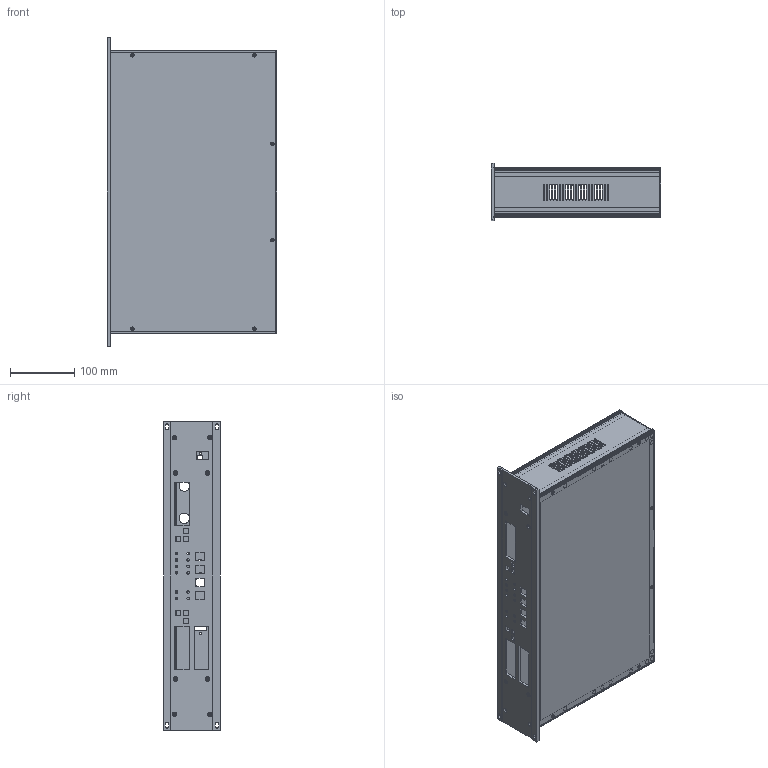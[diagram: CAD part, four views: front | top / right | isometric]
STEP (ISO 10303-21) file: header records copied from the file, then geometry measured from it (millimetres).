
FILE_DESCRIPTION (( 'STEP AP203' ), '1' );
FILE_NAME ('5214BYv01-221020.STEP', '2025-10-15T08:51:52', ( '' ), ( '' ), 'SwSTEP 2.0', 'SolidWorks 2021', '' );
FILE_SCHEMA (( 'CONFIG_CONTROL_DESIGN' ));
Length unit declared in the file: millimetre
Products named in the file (1): 5214BYv01-221020
Bounding box: 264.5 x 88 x 480 mm (x, y, z)
Volume: 538420.9 mm3; surface area: 762397.6 mm2
Topology: 6 solids, 6 shells, 613 faces, 1831 edges, 1232 vertices
Faces by surface type: plane 358, cylinder 191, cone 64
Full cylindrical faces by diameter (mm): 2.5 x12, 3.5 x60, 4 x12, 6 x1, 16 x6
Entity records: 19873 total; most frequent: CARTESIAN_POINT 3350, DIRECTION 3292, ORIENTED_EDGE 3180, EDGE_CURVE 1590, VERTEX_POINT 1146, VECTOR 1116, LINE 1116, EDGE_LOOP 1102
